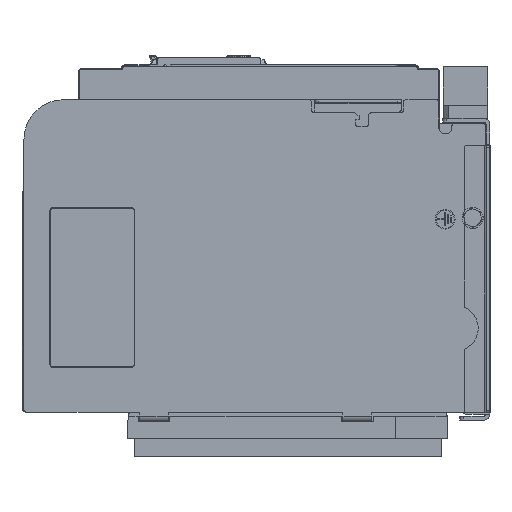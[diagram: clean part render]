
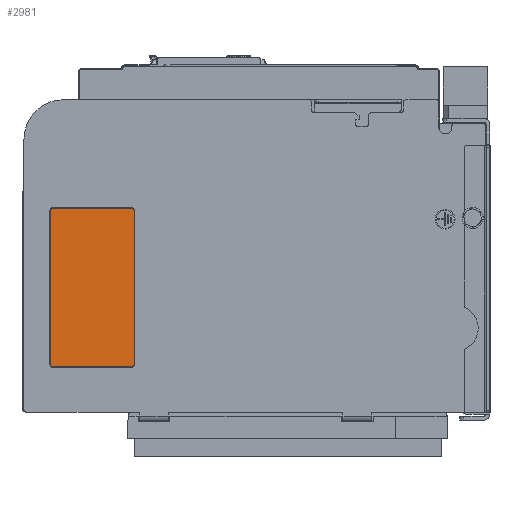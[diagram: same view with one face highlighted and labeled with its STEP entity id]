
A CAD part, left-side view. The second image highlights one B-rep face of the part: STEP entity #2981.
In plain terms, the highlighted planar face has unit normal (-1, 0, 0).
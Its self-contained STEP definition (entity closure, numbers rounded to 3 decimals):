
#2178 = CARTESIAN_POINT ( 'NONE',  ( -199., 145.647, -141. ) ) ;
#2231 = VERTEX_POINT ( 'NONE', #100592 ) ;
#2840 = VERTEX_POINT ( 'NONE', #47271 ) ;
#2981 = ADVANCED_FACE ( 'NONE', ( #115990 ), #114998, .F. ) ;
#4003 = CARTESIAN_POINT ( 'NONE',  ( -199., 101.551, -140.551 ) ) ;
#4353 = CARTESIAN_POINT ( 'NONE',  ( -199., 101.536, -20. ) ) ;
#4434 = CARTESIAN_POINT ( 'NONE',  ( -199., 100.988, -140.024 ) ) ;
#4781 = EDGE_CURVE ( 'NONE', #8251, #72330, #90124, .T. ) ;
#4842 = CARTESIAN_POINT ( 'NONE',  ( -199., 101.354, -140.39 ) ) ;
#8251 = VERTEX_POINT ( 'NONE', #115574 ) ;
#10220 = CARTESIAN_POINT ( 'NONE',  ( -199., 145.647, -131.5 ) ) ;
#11014 = DIRECTION ( 'NONE',  ( 1., 0., 0. ) ) ;
#11188 = EDGE_CURVE ( 'NONE', #79335, #8251, #49014, .T. ) ;
#13469 = CARTESIAN_POINT ( 'NONE',  ( -199., 102.682, -141. ) ) ;
#13880 = CARTESIAN_POINT ( 'NONE',  ( -199., 100.522, -138.893 ) ) ;
#14310 = CARTESIAN_POINT ( 'NONE',  ( -199., 100.586, -139.159 ) ) ;
#15186 = EDGE_CURVE ( 'NONE', #72330, #2840, #109334, .T. ) ;
#16414 = ORIENTED_EDGE ( 'NONE', *, *, #99125, .F. ) ;
#17034 = EDGE_CURVE ( 'NONE', #80797, #2231, #81722, .T. ) ;
#17375 = DIRECTION ( 'NONE',  ( 0., 0., -1. ) ) ;
#18115 = VECTOR ( 'NONE', #17375, 1000. ) ;
#18489 = CARTESIAN_POINT ( 'NONE',  ( -199., 164.5, -131.5 ) ) ;
#20205 = EDGE_CURVE ( 'NONE', #2840, #108364, #112569, .T. ) ;
#22472 = CARTESIAN_POINT ( 'NONE',  ( -199., 164.5, -138.5 ) ) ;
#22892 = EDGE_CURVE ( 'NONE', #2231, #73591, #61906, .T. ) ;
#23133 = CARTESIAN_POINT ( 'NONE',  ( -199., 162., -20. ) ) ;
#23698 = CARTESIAN_POINT ( 'NONE',  ( -199., 103., -20. ) ) ;
#23947 = ORIENTED_EDGE ( 'NONE', *, *, #17034, .F. ) ;
#24504 = CARTESIAN_POINT ( 'NONE',  ( -199., 100.5, -21.036 ) ) ;
#31595 = VECTOR ( 'NONE', #107317, 1000. ) ;
#32359 = CARTESIAN_POINT ( 'NONE',  ( -199., 101.941, -140.766 ) ) ;
#34660 = VECTOR ( 'NONE', #103937, 1000. ) ;
#37812 = AXIS2_PLACEMENT_3D ( 'NONE', #10220, #11014, #76013 ) ;
#41005 = CARTESIAN_POINT ( 'NONE',  ( -199., 102.375, -140.941 ) ) ;
#41354 = CARTESIAN_POINT ( 'NONE',  ( -199., 100.5, -22.5 ) ) ;
#41426 = CARTESIAN_POINT ( 'NONE',  ( -199., 100.5, -138.5 ) ) ;
#42169 = ORIENTED_EDGE ( 'NONE', *, *, #20205, .F. ) ;
#42259 = CARTESIAN_POINT ( 'NONE',  ( -199., 100.647, -139.346 ) ) ;
#43135 = LINE ( 'NONE', #102423, #18115 ) ;
#45775 = CARTESIAN_POINT ( 'NONE',  ( -199., 100.5, -22.5 ) ) ;
#47271 = CARTESIAN_POINT ( 'NONE',  ( -199., 164.5, -138.5 ) ) ;
#49014 = B_SPLINE_CURVE_WITH_KNOTS ( 'NONE', 3,
 ( #41426, #60345, #13880, #14310, #51309, #42259, #108403, #107176, #50881, #4434, #4842, #4003, #87907, #32359, #51735, #69829, #69418, #41005, #13469, #117484 ),
 .UNSPECIFIED., .F., .F.,
 ( 4, 1, 1, 1, 2, 2, 2, 1, 1, 1, 2, 2, 4 ),
 ( -1., -0.875, -0.812, -0.781, -0.766, -0.75, -0.5, -0.375, -0.313, -0.281, -0.266, -0.25, 0. ),
 .UNSPECIFIED. ) ;
#50881 = CARTESIAN_POINT ( 'NONE',  ( -199., 100.802, -139.741 ) ) ;
#51309 = CARTESIAN_POINT ( 'NONE',  ( -199., 100.628, -139.29 ) ) ;
#51735 = CARTESIAN_POINT ( 'NONE',  ( -199., 102., -140.792 ) ) ;
#53339 = VECTOR ( 'NONE', #67986, 1000. ) ;
#59610 = ORIENTED_EDGE ( 'NONE', *, *, #79096, .F. ) ;
#60327 =( BOUNDED_CURVE ( )  B_SPLINE_CURVE ( 3, ( #67442, #85922, #67022, #113444 ),
 .UNSPECIFIED., .F., .F. ) 
 B_SPLINE_CURVE_WITH_KNOTS ( ( 4, 4 ),
 ( 0., 1. ),
 .UNSPECIFIED. ) 
 CURVE ( )  GEOMETRIC_REPRESENTATION_ITEM ( )  RATIONAL_B_SPLINE_CURVE ( ( 1., 0.805, 0.805, 1. ) ) 
 REPRESENTATION_ITEM ( '' )  );
#60345 = CARTESIAN_POINT ( 'NONE',  ( -199., 100.5, -138.659 ) ) ;
#61906 =( BOUNDED_CURVE ( )  B_SPLINE_CURVE ( 3, ( #23698, #4353, #24504, #41354 ),
 .UNSPECIFIED., .F., .F. ) 
 B_SPLINE_CURVE_WITH_KNOTS ( ( 4, 4 ),
 ( 0., 1. ),
 .UNSPECIFIED. ) 
 CURVE ( )  GEOMETRIC_REPRESENTATION_ITEM ( )  RATIONAL_B_SPLINE_CURVE ( ( 1., 0.805, 0.805, 1. ) ) 
 REPRESENTATION_ITEM ( '' )  );
#67022 = CARTESIAN_POINT ( 'NONE',  ( -199., 163.464, -20. ) ) ;
#67442 = CARTESIAN_POINT ( 'NONE',  ( -199., 164.5, -22.5 ) ) ;
#67986 = DIRECTION ( 'NONE',  ( 0., 1., 0. ) ) ;
#68952 = CARTESIAN_POINT ( 'NONE',  ( -199., 164.5, -139.964 ) ) ;
#69418 = CARTESIAN_POINT ( 'NONE',  ( -199., 102.061, -140.817 ) ) ;
#69829 = CARTESIAN_POINT ( 'NONE',  ( -199., 102.04, -140.808 ) ) ;
#72330 = VERTEX_POINT ( 'NONE', #106361 ) ;
#72970 = ORIENTED_EDGE ( 'NONE', *, *, #11188, .F. ) ;
#73591 = VERTEX_POINT ( 'NONE', #45775 ) ;
#76013 = DIRECTION ( 'NONE',  ( 0., -1., 0. ) ) ;
#76658 = ORIENTED_EDGE ( 'NONE', *, *, #22892, .F. ) ;
#78388 = CARTESIAN_POINT ( 'NONE',  ( -199., 162., -141. ) ) ;
#79096 = EDGE_CURVE ( 'NONE', #73591, #79335, #43135, .T. ) ;
#79335 = VERTEX_POINT ( 'NONE', #108887 ) ;
#80797 = VERTEX_POINT ( 'NONE', #23133 ) ;
#81722 = LINE ( 'NONE', #118033, #31595 ) ;
#85922 = CARTESIAN_POINT ( 'NONE',  ( -199., 164.5, -21.036 ) ) ;
#87907 = CARTESIAN_POINT ( 'NONE',  ( -199., 101.807, -140.7 ) ) ;
#88281 = CARTESIAN_POINT ( 'NONE',  ( -199., 163.464, -141. ) ) ;
#90124 = LINE ( 'NONE', #2178, #53339 ) ;
#94127 = CARTESIAN_POINT ( 'NONE',  ( -199., 164.5, -22.5 ) ) ;
#99125 = EDGE_CURVE ( 'NONE', #108364, #80797, #60327, .T. ) ;
#100592 = CARTESIAN_POINT ( 'NONE',  ( -199., 103., -20. ) ) ;
#102423 = CARTESIAN_POINT ( 'NONE',  ( -199., 100.5, -131.5 ) ) ;
#103937 = DIRECTION ( 'NONE',  ( 0., 0., 1. ) ) ;
#106361 = CARTESIAN_POINT ( 'NONE',  ( -199., 162., -141. ) ) ;
#107176 = CARTESIAN_POINT ( 'NONE',  ( -199., 100.668, -139.4 ) ) ;
#107317 = DIRECTION ( 'NONE',  ( 0., -1., 0. ) ) ;
#108364 = VERTEX_POINT ( 'NONE', #94127 ) ;
#108403 = CARTESIAN_POINT ( 'NONE',  ( -199., 100.661, -139.383 ) ) ;
#108887 = CARTESIAN_POINT ( 'NONE',  ( -199., 100.5, -138.5 ) ) ;
#109334 =( BOUNDED_CURVE ( )  B_SPLINE_CURVE ( 3, ( #78388, #88281, #68952, #22472 ),
 .UNSPECIFIED., .F., .T. ) 
 B_SPLINE_CURVE_WITH_KNOTS ( ( 4, 4 ),
 ( 0., 1. ),
 .UNSPECIFIED. ) 
 CURVE ( )  GEOMETRIC_REPRESENTATION_ITEM ( )  RATIONAL_B_SPLINE_CURVE ( ( 1., 0.805, 0.805, 1. ) ) 
 REPRESENTATION_ITEM ( '' )  );
#111812 = ORIENTED_EDGE ( 'NONE', *, *, #15186, .F. ) ;
#112569 = LINE ( 'NONE', #18489, #34660 ) ;
#113444 = CARTESIAN_POINT ( 'NONE',  ( -199., 162., -20. ) ) ;
#114998 = PLANE ( 'NONE',  #37812 ) ;
#115574 = CARTESIAN_POINT ( 'NONE',  ( -199., 103., -141. ) ) ;
#115990 = FACE_OUTER_BOUND ( 'NONE', #121114, .T. ) ;
#117484 = CARTESIAN_POINT ( 'NONE',  ( -199., 103., -141. ) ) ;
#118033 = CARTESIAN_POINT ( 'NONE',  ( -199., 145.647, -20. ) ) ;
#118280 = ORIENTED_EDGE ( 'NONE', *, *, #4781, .F. ) ;
#121114 = EDGE_LOOP ( 'NONE', ( #72970, #59610, #76658, #23947, #16414, #42169, #111812, #118280 ) ) ;
